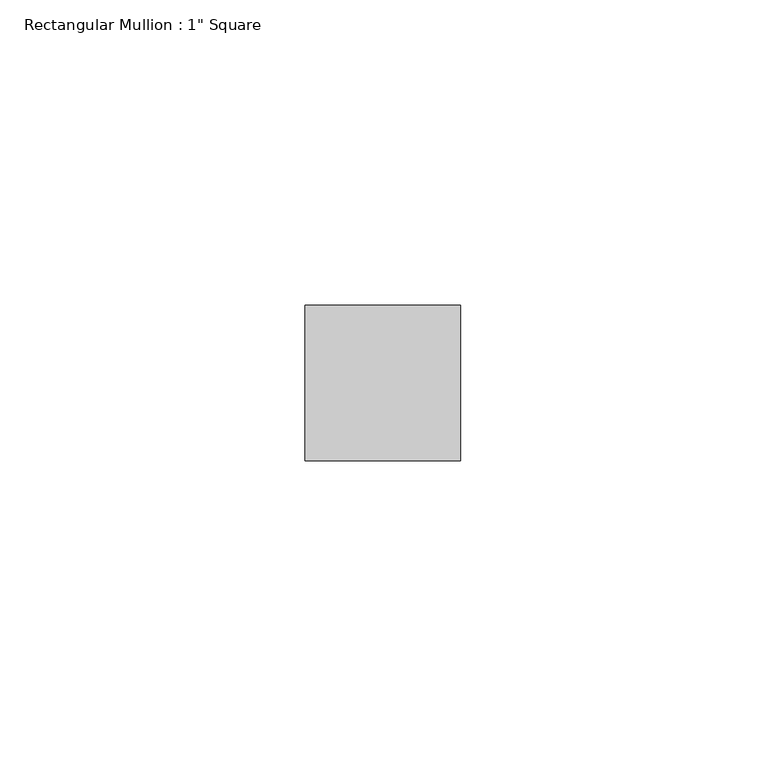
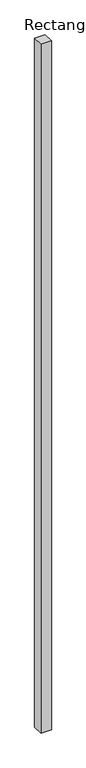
"""IFC4 building model written with IfcOpenShell, lengths in millimetres: member geometry."""

from ifc_helpers import new_model, si_unit, frame, origin, place, context, project, spatial, polyline, outline, extrude, source, transform, mapped, element, save


def member_0ea93e7c(model_context):
    return source(origin(), model_context, "Body", "SweptSolid", [
        extrude(outline(polyline([(12.7, 12.7), (12.7, -12.7), (-12.7, -12.7), (-12.7, 12.7), (12.7, 12.7)])), frame((0.0, 0.0, -1752.4623919), z_axis=(0.0, 0.0, 1.0), x_axis=(1.0, 0.0, 0.0)), (0.0, 0.0, 1.0), 1752.4623919),
    ])


if __name__ == "__main__":
    model = new_model("IFC4")
    model_context = context("Model", 3, world=origin())
    ifc_project = project(units=[si_unit("LENGTHUNIT", "METRE", prefix="MILLI")], contexts=[model_context])
    site = spatial("IfcSite", under=ifc_project)
    building = spatial("IfcBuilding", under=site)
    placement = place(None, origin())
    member_shape = member_0ea93e7c(model_context)
    element("IfcMember", 1, ObjectType="Rectangular Mullion : 1\" Square", at=placement, inside=building, context=model_context, shape_type="MappedRepresentation", body=[
        mapped(member_shape, transform((0.0, 0.0, 0.0), x_axis=(1.0, 0.0, 0.0), y_axis=(0.0, 1.0, 0.0), z_axis=(0.0, 0.0, 1.0))),
    ])
    save(model, "model.ifc")
